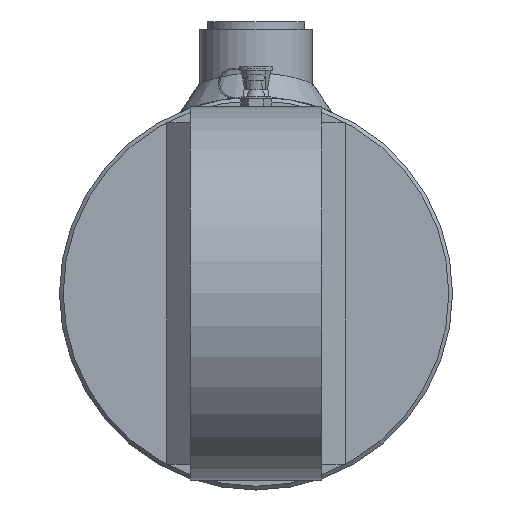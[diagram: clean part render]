
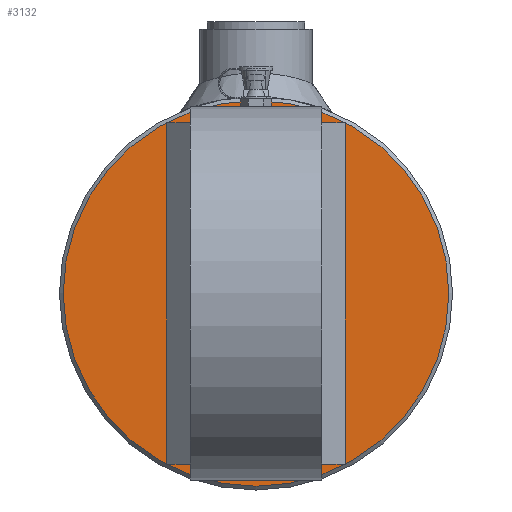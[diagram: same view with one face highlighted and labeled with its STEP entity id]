
A CAD part, left-side view. The second image highlights one B-rep face of the part: STEP entity #3132.
In plain terms, the highlighted planar face has unit normal (-1, 0, 0).
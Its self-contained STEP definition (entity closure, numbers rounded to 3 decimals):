
#3132 = ADVANCED_FACE( '', ( #7954 ), #7955, .T. );
#7954 = FACE_OUTER_BOUND( '', #9960, .T. );
#7955 = PLANE( '', #9961 );
#9960 = EDGE_LOOP( '', ( #10853 ) );
#9961 = AXIS2_PLACEMENT_3D( '', #10854, #10855, #10856 );
#10853 = ORIENTED_EDGE( '', *, *, #12045, .T. );
#10854 = CARTESIAN_POINT( '', ( -15., 0., 0. ) );
#10855 = DIRECTION( '', ( -1., 0., 0. ) );
#10856 = DIRECTION( '', ( 0., -1., 0. ) );
#12045 = EDGE_CURVE( '', #14865, #14865, #14866, .T. );
#14865 = VERTEX_POINT( '', #15877 );
#14866 = CIRCLE( '', #15878, 51.5 );
#15877 = CARTESIAN_POINT( '', ( -15., -51.5, 0. ) );
#15878 = AXIS2_PLACEMENT_3D( '', #16055, #16056, #16057 );
#16055 = CARTESIAN_POINT( '', ( -15., 0., 0. ) );
#16056 = DIRECTION( '', ( -1., 0., 0. ) );
#16057 = DIRECTION( '', ( 0., -1., 0. ) );
